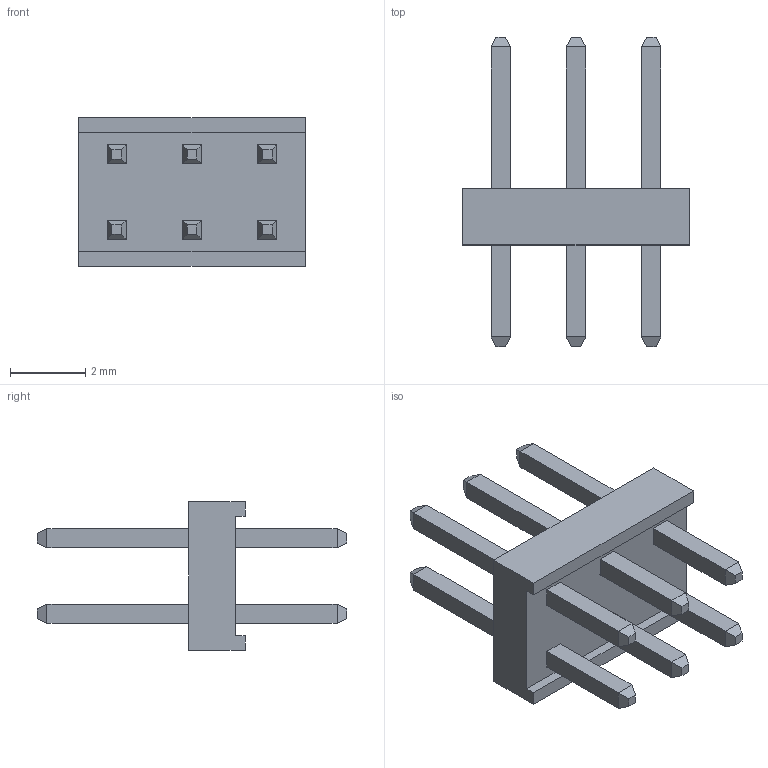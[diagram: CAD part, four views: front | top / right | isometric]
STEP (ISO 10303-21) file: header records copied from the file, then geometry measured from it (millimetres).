
FILE_DESCRIPTION( ( 'STEP AP214' ), '1' );
FILE_NAME( 'p:/temp/worker_4/temp/app_46_0201909101951427650225310e898ce_000000_00_00_000000/format_0/TMM-103-03-L-D.stp', '2019-09-10T17:51:44', ( '' ), ( '' ), ' ', 'PARTsolutions', ' ' );
FILE_SCHEMA( ( 'AUTOMOTIVE_DESIGN { 1 0 10303 214 1 1 1 1 }' ) );
Length unit declared in the file: inch
Products named in the file (4): TMM-103-03-L-D; _TMM-103-03-L-D_body; _TMM-103-03-L-D_pins1; _TMM-103-03-L-D_pins2
Assembly tree (3 placements, depth 2):
  TMM-103-03-L-D
    _TMM-103-03-L-D_body
    _TMM-103-03-L-D_pins1
    _TMM-103-03-L-D_pins2
Bounding box: 6 x 8.2 x 3.94 mm (x, y, z)
Volume: 46.8 mm3; surface area: 245.5 mm2
Topology: 3 solids, 3 shells, 150 faces, 360 edges, 224 vertices
Faces by surface type: plane 150
Entity records: 5494 total; most frequent: CARTESIAN_POINT 738, ORIENTED_EDGE 720, DIRECTION 668, EDGE_CURVE 360, LINE 360, VECTOR 360, VERTEX_POINT 224, EDGE_LOOP 170
